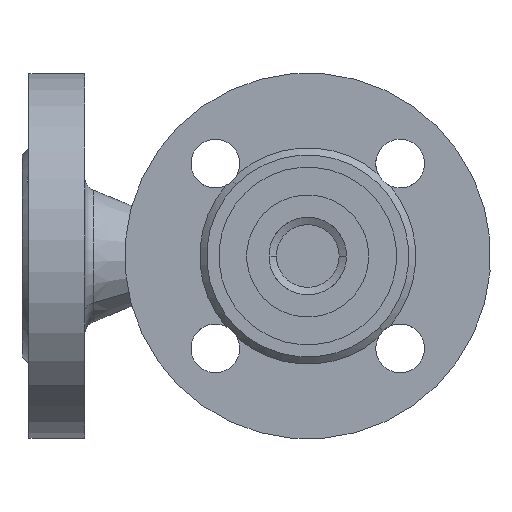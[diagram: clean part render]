
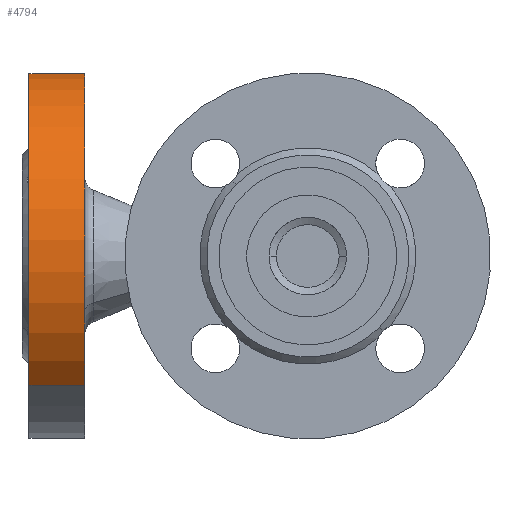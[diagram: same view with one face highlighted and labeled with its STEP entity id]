
A CAD part, front view. The second image highlights one B-rep face of the part: STEP entity #4794.
In plain terms, the highlighted cylindrical face has radius 52.5 mm (diameter 105 mm), a partial arc.
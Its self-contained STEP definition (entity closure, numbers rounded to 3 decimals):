
#2800 = ORIENTED_EDGE ( 'NONE', *, *, #5656, .T. ) ;
#3316 = VERTEX_POINT ( 'NONE', #8719 ) ;
#3531 = VERTEX_POINT ( 'NONE', #8839 ) ;
#3748 = EDGE_CURVE ( 'NONE', #3531, #3316, #9050, .T. ) ;
#4107 = ORIENTED_EDGE ( 'NONE', *, *, #3748, .T. ) ;
#4767 = EDGE_LOOP ( 'NONE', ( #4107, #2800, #5576, #5429 ) ) ;
#4794 = ADVANCED_FACE ( 'NONE', ( #10888 ), #10889, .T. ) ;
#5383 = EDGE_CURVE ( 'NONE', #3531, #5501, #5955, .T. ) ;
#5429 = ORIENTED_EDGE ( 'NONE', *, *, #5383, .F. ) ;
#5501 = VERTEX_POINT ( 'NONE', #6709 ) ;
#5523 = EDGE_CURVE ( 'NONE', #5501, #5637, #6880, .T. ) ;
#5576 = ORIENTED_EDGE ( 'NONE', *, *, #5523, .F. ) ;
#5637 = VERTEX_POINT ( 'NONE', #7759 ) ;
#5656 = EDGE_CURVE ( 'NONE', #3316, #5637, #7902, .T. ) ;
#5955 = LINE ( 'NONE', #5956, #5957 ) ;
#5956 = CARTESIAN_POINT ( 'NONE',  ( -52.5, 75., 0. ) ) ;
#5957 = VECTOR ( 'NONE', #5958, 1000. ) ;
#5958 = DIRECTION ( 'NONE',  ( 0., 1., 0. ) ) ;
#6709 = CARTESIAN_POINT ( 'NONE',  ( -52.5, 18., 0. ) ) ;
#6880 = CIRCLE ( 'NONE', #6885, 52.5 ) ;
#6885 = AXIS2_PLACEMENT_3D ( 'NONE', #6886, #6887, #6888 ) ;
#6886 = CARTESIAN_POINT ( 'NONE',  ( 0., 18., 0. ) ) ;
#6887 = DIRECTION ( 'NONE',  ( 0., 1., 0. ) ) ;
#6888 = DIRECTION ( 'NONE',  ( -1., 0., 0. ) ) ;
#7759 = CARTESIAN_POINT ( 'NONE',  ( 52.5, 18., 0. ) ) ;
#7902 = LINE ( 'NONE', #7903, #7904 ) ;
#7903 = CARTESIAN_POINT ( 'NONE',  ( 52.5, 75., 0. ) ) ;
#7904 = VECTOR ( 'NONE', #7905, 1000. ) ;
#7905 = DIRECTION ( 'NONE',  ( 0., 1., 0. ) ) ;
#8719 = CARTESIAN_POINT ( 'NONE',  ( 52.5, 2., 0. ) ) ;
#8839 = CARTESIAN_POINT ( 'NONE',  ( -52.5, 2., 0. ) ) ;
#9050 = CIRCLE ( 'NONE', #9051, 52.5 ) ;
#9051 = AXIS2_PLACEMENT_3D ( 'NONE', #9055, #9056, #9057 ) ;
#9055 = CARTESIAN_POINT ( 'NONE',  ( 0., 2., 0. ) ) ;
#9056 = DIRECTION ( 'NONE',  ( 0., 1., 0. ) ) ;
#9057 = DIRECTION ( 'NONE',  ( -1., 0., 0. ) ) ;
#10888 = FACE_OUTER_BOUND ( 'NONE', #4767, .T. ) ;
#10889 = CYLINDRICAL_SURFACE ( 'NONE', #10890, 52.5 ) ;
#10890 = AXIS2_PLACEMENT_3D ( 'NONE', #10891, #10892, #10893 ) ;
#10891 = CARTESIAN_POINT ( 'NONE',  ( 0., 75., 0. ) ) ;
#10892 = DIRECTION ( 'NONE',  ( 0., 1., 0. ) ) ;
#10893 = DIRECTION ( 'NONE',  ( -1., 0., 0. ) ) ;
